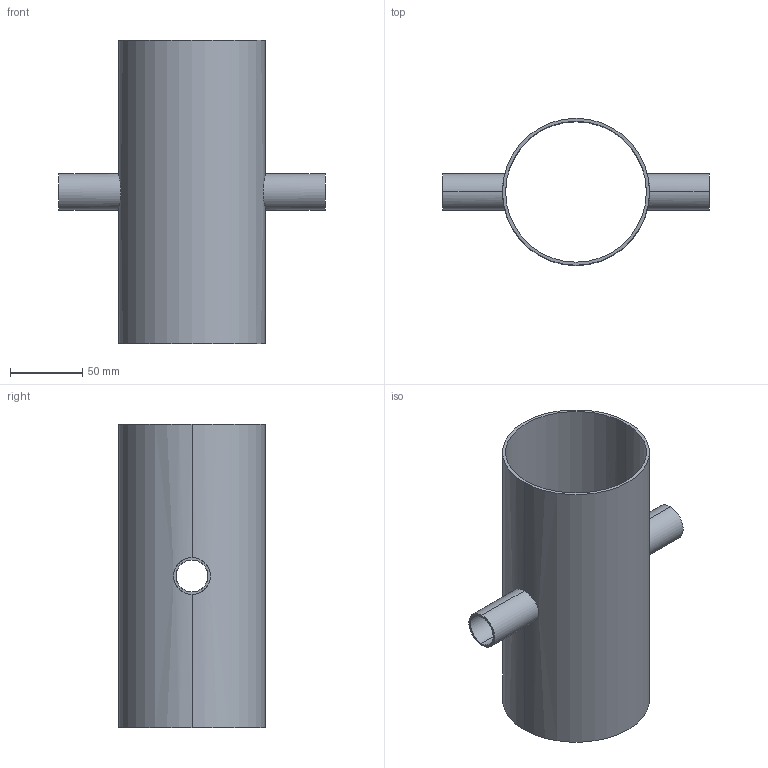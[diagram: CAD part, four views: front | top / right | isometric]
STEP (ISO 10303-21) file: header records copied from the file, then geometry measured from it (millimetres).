
FILE_DESCRIPTION (( 'STEP AP214' ), '1' );
FILE_NAME ('TE9RWWWW6L4.0x1.0-...STEP', '2016-05-22T04:43:35', ( 'eran' ), ( '' ), 'SwSTEP 2.0', 'SolidWorks 2016', '' );
FILE_SCHEMA (( 'AUTOMOTIVE_DESIGN' ));
Length unit declared in the file: millimetre
Products named in the file (1): TE9RWWWW6L4.0x1.0-..
Bounding box: 184.15 x 101.6 x 209.55 mm (x, y, z)
Volume: 146796.8 mm3; surface area: 143592.4 mm2
Topology: 1 solids, 1 shells, 16 faces, 40 edges, 24 vertices
Faces by surface type: cylinder 12, plane 4
Entity records: 906 total; most frequent: CARTESIAN_POINT 481, DIRECTION 82, ORIENTED_EDGE 80, EDGE_CURVE 40, AXIS2_PLACEMENT_3D 33, VERTEX_POINT 24, EDGE_LOOP 20, ADVANCED_FACE 16
